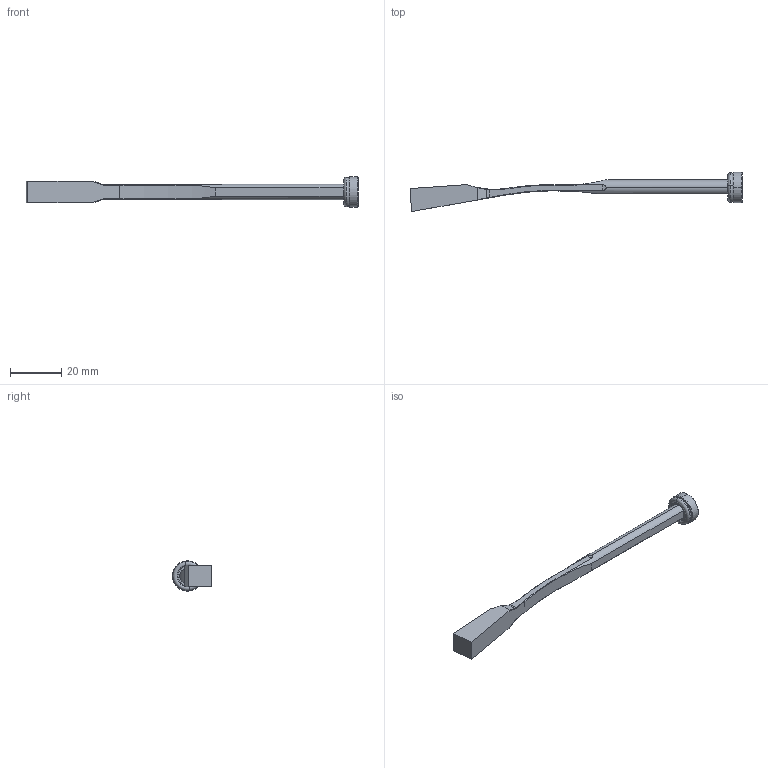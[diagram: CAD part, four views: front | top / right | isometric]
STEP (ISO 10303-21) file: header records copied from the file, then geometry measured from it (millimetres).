
FILE_DESCRIPTION (( 'STEP AP214' ), '1' );
FILE_NAME ('pw060822_ejection.STEP', '2021-07-15T09:07:31', ( '' ), ( '' ), 'SwSTEP 2.0', 'SolidWorks 2019', '' );
FILE_SCHEMA (( 'AUTOMOTIVE_DESIGN' ));
Length unit declared in the file: millimetre
Products named in the file (5): 1DIN7991416_DIN 7991 - M4 x 16 --- 16C; 9PW060822; 3JT7.5X2X11.5; 9FP1205M4; pw060822_ejection
Assembly tree (4 placements, depth 2):
  pw060822_ejection
    9PW060822
    9FP1205M4
    1DIN7991416_DIN 7991 - M4 x 16 --- 16C
    3JT7.5X2X11.5
Bounding box: 129.5 x 15.28 x 11.8 mm (x, y, z)
Volume: 4084.5 mm3; surface area: 3977.6 mm2
Topology: 4 solids, 4 shells, 442 faces, 1173 edges, 764 vertices
Faces by surface type: bspline 249, plane 108, cylinder 51, cone 20, torus 14
Entity records: 25179 total; most frequent: CARTESIAN_POINT 16222, ORIENTED_EDGE 2338, EDGE_CURVE 1169, DIRECTION 856, B_SPLINE_CURVE_WITH_KNOTS 820, VERTEX_POINT 764, EDGE_LOOP 475, ADVANCED_FACE 442
